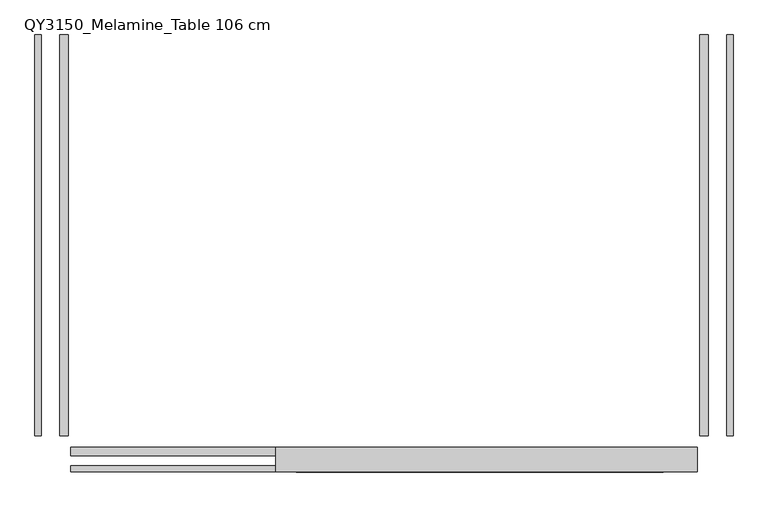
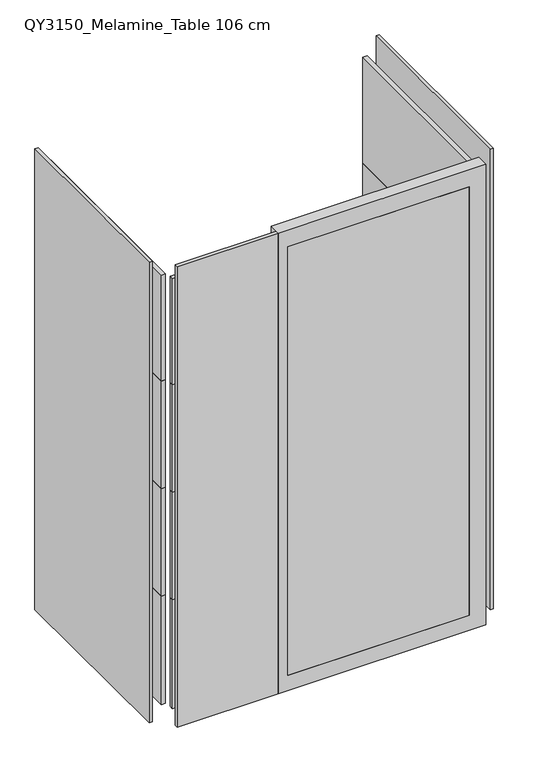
"""IFC4 building model written with IfcOpenShell, lengths in millimetres: furniture geometry, Qyos_150 : QY3150_Melamine_Table 106 cm."""

from ifc_helpers import new_model, si_unit, frame, origin, place, context, project, spatial, polyline, outline, extrude, source, transform, mapped, element, save


def qy3150_melamine_table_106_cm_c16a6e92(model_context):
    return source(origin(), model_context, "Body", "SweptSolid", [
        extrude(outline(polyline([(619.5, -520.0), (619.5, -525.0), (-195.7844354, -525.0), (-195.7844354, -520.0), (619.5, -520.0)])), frame((0.0, 0.0, 82.0), z_axis=(0.0, 0.0, 1.0), x_axis=(1.0, 0.0, 0.0)), (0.0, 0.0, 1.0), 2040.1),
        extrude(outline(polyline([(10.0, -239.9562864), (10.0, 695.0), (2202.1, 695.0), (2202.1, -239.9562864), (10.0, -239.9562864)]), holes=[polyline([(82.0, 619.5), (82.0, -194.9250972), (2122.1, -194.9250972), (2122.1, 619.5), (82.0, 619.5)])]), frame((0.0, -525.0, 0.0), z_axis=(0.0, 1.0, 0.0), x_axis=(0.0, 0.0, 1.0)), (0.0, 0.0, 1.0), 55.0),
        extrude(outline(polyline([(720.0, 444.9498873), (720.0, -445.0024364), (701.0, -445.0024364), (701.0, 444.9498873), (720.0, 444.9498873)])), frame((0.0, 0.0, 1617.9823403), z_axis=(0.0, 0.0, 1.0), x_axis=(1.0, 0.0, 0.0)), (0.0, 0.0, 1.0), 504.1176597),
        extrude(outline(polyline([(-720.0, 445.0), (-701.0, 445.0), (-701.0, -445.0), (-720.0, -445.0), (-720.0, 445.0)])), frame((0.0, 0.0, 1617.9823403), z_axis=(0.0, 0.0, 1.0), x_axis=(1.0, 0.0, 0.0)), (0.0, 0.0, 1.0), 504.1176597),
        extrude(outline(polyline([(-695.0, -470.0), (-239.9562864, -470.0), (-239.9562864, -489.0), (-695.0, -489.0), (-695.0, -470.0)])), frame((0.0, 0.0, 1617.9823403), z_axis=(0.0, 0.0, 1.0), x_axis=(1.0, 0.0, 0.0)), (0.0, 0.0, 1.0), 504.1176597),
        extrude(outline(polyline([(720.0, 445.0), (720.0, -445.0), (701.0, -445.0), (701.0, 445.0), (720.0, 445.0)])), frame((0.0, 0.0, 1106.0116287), z_axis=(0.0, 0.0, 1.0), x_axis=(1.0, 0.0, 0.0)), (0.0, 0.0, 1.0), 511.9707116),
        extrude(outline(polyline([(-720.0, 445.0), (-701.0, 445.0), (-701.0, -445.0), (-720.0, -445.0), (-720.0, 445.0)])), frame((0.0, 0.0, 1106.0116287), z_axis=(0.0, 0.0, 1.0), x_axis=(1.0, 0.0, 0.0)), (0.0, 0.0, 1.0), 511.9707116),
        extrude(outline(polyline([(-695.0, -470.0), (-239.9562864, -470.0), (-239.9562864, -489.0), (-695.0, -489.0), (-695.0, -470.0)])), frame((0.0, 0.0, 1106.0116287), z_axis=(0.0, 0.0, 1.0), x_axis=(1.0, 0.0, 0.0)), (0.0, 0.0, 1.0), 511.9707116),
        extrude(outline(polyline([(720.0, 445.0), (720.0, -445.0), (701.0, -445.0), (701.0, 445.0), (720.0, 445.0)])), frame((0.0, 0.0, 593.9823403), z_axis=(0.0, 0.0, 1.0), x_axis=(1.0, 0.0, 0.0)), (0.0, 0.0, 1.0), 512.0292884),
        extrude(outline(polyline([(-720.0, 445.0), (-701.0, 445.0), (-701.0, -445.0), (-720.0, -445.0), (-720.0, 445.0)])), frame((0.0, 0.0, 593.9823403), z_axis=(0.0, 0.0, 1.0), x_axis=(1.0, 0.0, 0.0)), (0.0, 0.0, 1.0), 512.0292884),
        extrude(outline(polyline([(-695.0, -470.0), (-239.9562864, -470.0), (-239.9562864, -489.0), (-695.0, -489.0), (-695.0, -470.0)])), frame((0.0, 0.0, 593.9823403), z_axis=(0.0, 0.0, 1.0), x_axis=(1.0, 0.0, 0.0)), (0.0, 0.0, 1.0), 512.0292884),
        extrude(outline(polyline([(720.0, 445.0), (720.0, -445.0), (701.0, -445.0), (701.0, 445.0), (720.0, 445.0)])), frame((0.0, 0.0, 77.0), z_axis=(0.0, 0.0, 1.0), x_axis=(1.0, 0.0, 0.0)), (0.0, 0.0, 1.0), 516.9823403),
        extrude(outline(polyline([(-720.0, 445.0), (-701.0, 445.0), (-701.0, -445.0), (-720.0, -445.0), (-720.0, 445.0)])), frame((0.0, 0.0, 77.0), z_axis=(0.0, 0.0, 1.0), x_axis=(1.0, 0.0, 0.0)), (0.0, 0.0, 1.0), 516.9823403),
        extrude(outline(polyline([(-695.0, -470.0), (-239.9562864, -470.0), (-239.9562864, -489.0), (-695.0, -489.0), (-695.0, -470.0)])), frame((0.0, 0.0, 77.0), z_axis=(0.0, 0.0, 1.0), x_axis=(1.0, 0.0, 0.0)), (0.0, 0.0, 1.0), 516.9823403),
        extrude(outline(polyline([(-775.0, 445.0), (-761.0, 445.0), (-761.0, -445.0), (-775.0, -445.0), (-775.0, 445.0)])), frame((0.0, 0.0, 10.0), z_axis=(0.0, 0.0, 1.0), x_axis=(1.0, 0.0, 0.0)), (0.0, 0.0, 1.0), 2192.1),
        extrude(outline(polyline([(775.0, 445.0), (775.0, -445.0), (761.0, -445.0), (761.0, 445.0), (775.0, 445.0)])), frame((0.0, 0.0, 10.0), z_axis=(0.0, 0.0, 1.0), x_axis=(1.0, 0.0, 0.0)), (0.0, 0.0, 1.0), 2192.1),
        extrude(outline(polyline([(-239.9562864, -525.0), (-695.0, -525.0), (-695.0, -511.0), (-239.9562864, -511.0), (-239.9562864, -525.0)])), frame((0.0, 0.0, 10.0), z_axis=(0.0, 0.0, 1.0), x_axis=(1.0, 0.0, 0.0)), (0.0, 0.0, 1.0), 2192.1),
    ])


if __name__ == "__main__":
    model = new_model("IFC4")
    model_context = context("Model", 3, world=origin())
    ifc_project = project(units=[si_unit("LENGTHUNIT", "METRE", prefix="MILLI")], contexts=[model_context])
    site = spatial("IfcSite", under=ifc_project)
    building = spatial("IfcBuilding", under=site)
    placement = place(None, origin())
    qy3150_melamine_table_106_cm_shape = qy3150_melamine_table_106_cm_c16a6e92(model_context)
    element("IfcFurniture", 1, ObjectType="Qyos_150 : QY3150_Melamine_Table 106 cm", at=placement, inside=building, context=model_context, shape_type="MappedRepresentation", body=[
        mapped(qy3150_melamine_table_106_cm_shape, transform((0.0, 0.0, 0.0), x_axis=(1.0, 0.0, 0.0), y_axis=(0.0, 1.0, 0.0), z_axis=(0.0, 0.0, 1.0))),
    ])
    save(model, "model.ifc")
